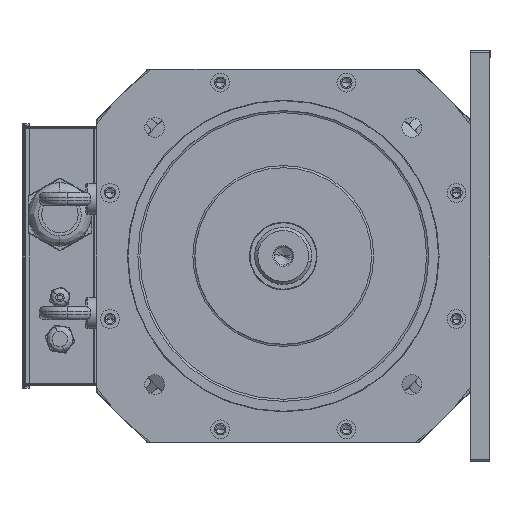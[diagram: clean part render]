
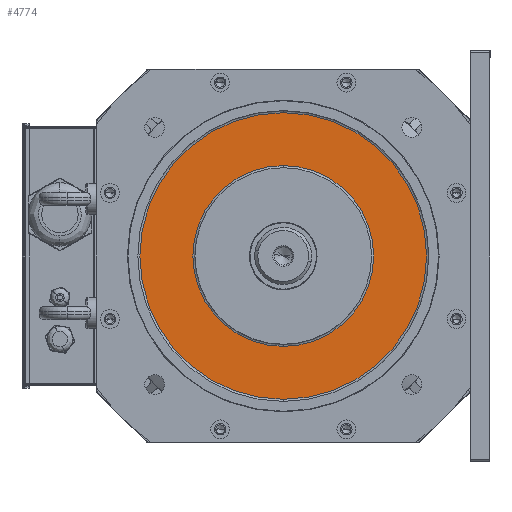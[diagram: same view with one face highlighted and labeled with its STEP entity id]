
A CAD part, left-side view. The second image highlights one B-rep face of the part: STEP entity #4774.
In plain terms, the highlighted planar face has unit normal (-1, 0, 0).
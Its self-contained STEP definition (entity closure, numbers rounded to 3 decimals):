
#807 = VERTEX_POINT ( 'NONE', #139318 ) ;
#4774 = ADVANCED_FACE ( 'NONE', ( #80831, #5686 ), #113771, .F. ) ;
#5686 = FACE_OUTER_BOUND ( 'NONE', #52548, .T. ) ;
#7403 = DIRECTION ( 'NONE',  ( -1., 0., 0. ) ) ;
#11598 = DIRECTION ( 'NONE',  ( 1., 0., 0. ) ) ;
#14411 = EDGE_CURVE ( 'NONE', #128301, #135599, #117322, .T. ) ;
#15532 = DIRECTION ( 'NONE',  ( -1., 0., 0. ) ) ;
#15760 = DIRECTION ( 'NONE',  ( 1., 0., 0. ) ) ;
#23464 = AXIS2_PLACEMENT_3D ( 'NONE', #84715, #41726, #52241 ) ;
#30534 = AXIS2_PLACEMENT_3D ( 'NONE', #71975, #7403, #114496 ) ;
#38780 = EDGE_CURVE ( 'NONE', #807, #125456, #98577, .T. ) ;
#41726 = DIRECTION ( 'NONE',  ( 1., 0., 0. ) ) ;
#45400 = EDGE_CURVE ( 'NONE', #135599, #128301, #83685, .T. ) ;
#45413 = EDGE_LOOP ( 'NONE', ( #120106, #120653 ) ) ;
#48409 = AXIS2_PLACEMENT_3D ( 'NONE', #75740, #11598, #109159 ) ;
#52241 = DIRECTION ( 'NONE',  ( 0., 0., -1. ) ) ;
#52548 = EDGE_LOOP ( 'NONE', ( #93027, #107175 ) ) ;
#57313 = CARTESIAN_POINT ( 'NONE',  ( 12., 0., -87. ) ) ;
#71975 = CARTESIAN_POINT ( 'NONE',  ( 12., 0., 0. ) ) ;
#75740 = CARTESIAN_POINT ( 'NONE',  ( 12., 0., 0. ) ) ;
#80481 = CARTESIAN_POINT ( 'NONE',  ( 12., 0., -138. ) ) ;
#80831 = FACE_BOUND ( 'NONE', #45413, .T. ) ;
#81060 = CARTESIAN_POINT ( 'NONE',  ( 12., 0., 0. ) ) ;
#83685 = CIRCLE ( 'NONE', #102801, 138. ) ;
#84715 = CARTESIAN_POINT ( 'NONE',  ( 12., 0., 0. ) ) ;
#91317 = CARTESIAN_POINT ( 'NONE',  ( 12., 85., 0. ) ) ;
#92059 = DIRECTION ( 'NONE',  ( 0., 0., -1. ) ) ;
#92996 = AXIS2_PLACEMENT_3D ( 'NONE', #91317, #15760, #93231 ) ;
#93027 = ORIENTED_EDGE ( 'NONE', *, *, #45400, .T. ) ;
#93231 = DIRECTION ( 'NONE',  ( 0., 0., -1. ) ) ;
#98577 = CIRCLE ( 'NONE', #48409, 87. ) ;
#102801 = AXIS2_PLACEMENT_3D ( 'NONE', #81060, #15532, #92059 ) ;
#104164 = CARTESIAN_POINT ( 'NONE',  ( 12., 0., 138. ) ) ;
#107175 = ORIENTED_EDGE ( 'NONE', *, *, #14411, .T. ) ;
#109159 = DIRECTION ( 'NONE',  ( 0., 0., -1. ) ) ;
#113771 = PLANE ( 'NONE',  #92996 ) ;
#114496 = DIRECTION ( 'NONE',  ( 0., 0., -1. ) ) ;
#117322 = CIRCLE ( 'NONE', #30534, 138. ) ;
#120106 = ORIENTED_EDGE ( 'NONE', *, *, #122546, .T. ) ;
#120653 = ORIENTED_EDGE ( 'NONE', *, *, #38780, .T. ) ;
#122546 = EDGE_CURVE ( 'NONE', #125456, #807, #130048, .T. ) ;
#125456 = VERTEX_POINT ( 'NONE', #57313 ) ;
#128301 = VERTEX_POINT ( 'NONE', #104164 ) ;
#130048 = CIRCLE ( 'NONE', #23464, 87. ) ;
#135599 = VERTEX_POINT ( 'NONE', #80481 ) ;
#139318 = CARTESIAN_POINT ( 'NONE',  ( 12., 0., 87. ) ) ;
